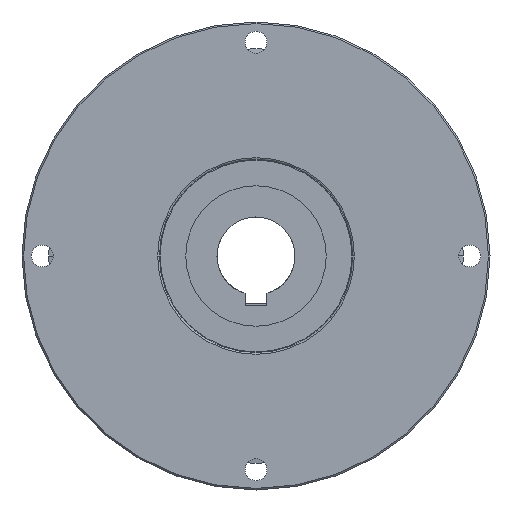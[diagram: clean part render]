
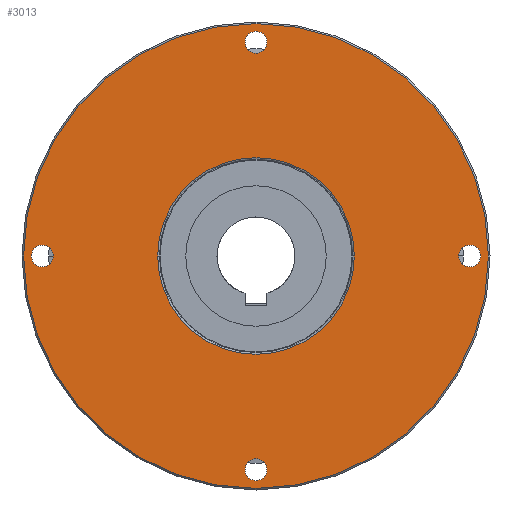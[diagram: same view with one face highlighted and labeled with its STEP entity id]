
A CAD part, front view. The second image highlights one B-rep face of the part: STEP entity #3013.
In plain terms, the highlighted planar face has unit normal (0, -1, 0).
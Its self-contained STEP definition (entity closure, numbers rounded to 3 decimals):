
#22 = ORIENTED_EDGE ( 'NONE', *, *, #2595, .T. ) ;
#56 = CIRCLE ( 'NONE', #6748, 3.5 ) ;
#57 = DIRECTION ( 'NONE',  ( 0., 0., 1. ) ) ;
#131 = DIRECTION ( 'NONE',  ( 0., 1., 0. ) ) ;
#275 = EDGE_CURVE ( 'NONE', #6487, #6667, #1657, .T. ) ;
#327 = AXIS2_PLACEMENT_3D ( 'NONE', #2169, #6372, #2766 ) ;
#418 = ORIENTED_EDGE ( 'NONE', *, *, #6399, .T. ) ;
#545 = EDGE_CURVE ( 'NONE', #6667, #6487, #7589, .T. ) ;
#572 = CARTESIAN_POINT ( 'NONE',  ( 68.5, -16.319, 0. ) ) ;
#643 = CARTESIAN_POINT ( 'NONE',  ( 0., -16.319, -72. ) ) ;
#662 = CARTESIAN_POINT ( 'NONE',  ( 0., -16.319, -31.5 ) ) ;
#766 = CARTESIAN_POINT ( 'NONE',  ( -68.5, -16.319, 0. ) ) ;
#830 = CIRCLE ( 'NONE', #6830, 3.5 ) ;
#940 = DIRECTION ( 'NONE',  ( 0., 0., 1. ) ) ;
#952 = ORIENTED_EDGE ( 'NONE', *, *, #5597, .T. ) ;
#987 = DIRECTION ( 'NONE',  ( 0., 1., 0. ) ) ;
#1085 = CARTESIAN_POINT ( 'NONE',  ( 0., -16.319, 0. ) ) ;
#1191 = CIRCLE ( 'NONE', #6592, 31.5 ) ;
#1277 = DIRECTION ( 'NONE',  ( 0., 1., 0. ) ) ;
#1371 = CARTESIAN_POINT ( 'NONE',  ( 0., -16.319, 31.5 ) ) ;
#1421 = AXIS2_PLACEMENT_3D ( 'NONE', #1553, #5731, #2146 ) ;
#1424 = EDGE_CURVE ( 'NONE', #2621, #4067, #2298, .T. ) ;
#1550 = CARTESIAN_POINT ( 'NONE',  ( 68.5, -16.319, -3.5 ) ) ;
#1553 = CARTESIAN_POINT ( 'NONE',  ( 0., -16.319, -68.5 ) ) ;
#1606 = EDGE_CURVE ( 'NONE', #7618, #2882, #6985, .T. ) ;
#1638 = EDGE_LOOP ( 'NONE', ( #6911, #3010 ) ) ;
#1657 = CIRCLE ( 'NONE', #6295, 3.5 ) ;
#1683 = DIRECTION ( 'NONE',  ( 0., 0., 1. ) ) ;
#1779 = EDGE_CURVE ( 'NONE', #7787, #2532, #4007, .T. ) ;
#2017 = ORIENTED_EDGE ( 'NONE', *, *, #275, .T. ) ;
#2146 = DIRECTION ( 'NONE',  ( 0., 0., 1. ) ) ;
#2169 = CARTESIAN_POINT ( 'NONE',  ( 0., -16.319, 0. ) ) ;
#2195 = DIRECTION ( 'NONE',  ( 0., 0., 1. ) ) ;
#2199 = CARTESIAN_POINT ( 'NONE',  ( 0., -16.319, 72. ) ) ;
#2298 = CIRCLE ( 'NONE', #2731, 3.5 ) ;
#2335 = EDGE_CURVE ( 'NONE', #4067, #2621, #56, .T. ) ;
#2339 = CARTESIAN_POINT ( 'NONE',  ( 0., -16.319, 0. ) ) ;
#2406 = FACE_OUTER_BOUND ( 'NONE', #1638, .T. ) ;
#2423 = DIRECTION ( 'NONE',  ( 0., 0., 1. ) ) ;
#2431 = ORIENTED_EDGE ( 'NONE', *, *, #1779, .T. ) ;
#2532 = VERTEX_POINT ( 'NONE', #662 ) ;
#2550 = DIRECTION ( 'NONE',  ( 0., 1., 0. ) ) ;
#2559 = CARTESIAN_POINT ( 'NONE',  ( 0., -16.319, -65. ) ) ;
#2595 = EDGE_CURVE ( 'NONE', #2532, #7787, #1191, .T. ) ;
#2598 = FACE_BOUND ( 'NONE', #4399, .T. ) ;
#2615 = CARTESIAN_POINT ( 'NONE',  ( 0., -16.319, -68.5 ) ) ;
#2621 = VERTEX_POINT ( 'NONE', #1550 ) ;
#2701 = CIRCLE ( 'NONE', #5963, 3.5 ) ;
#2715 = EDGE_LOOP ( 'NONE', ( #2723, #952 ) ) ;
#2723 = ORIENTED_EDGE ( 'NONE', *, *, #1606, .T. ) ;
#2731 = AXIS2_PLACEMENT_3D ( 'NONE', #6910, #987, #7583 ) ;
#2766 = DIRECTION ( 'NONE',  ( 0., 0., 1. ) ) ;
#2788 = ORIENTED_EDGE ( 'NONE', *, *, #2335, .T. ) ;
#2820 = VERTEX_POINT ( 'NONE', #4872 ) ;
#2882 = VERTEX_POINT ( 'NONE', #5114 ) ;
#3005 = AXIS2_PLACEMENT_3D ( 'NONE', #2339, #6560, #6202 ) ;
#3010 = ORIENTED_EDGE ( 'NONE', *, *, #7479, .T. ) ;
#3013 = ADVANCED_FACE ( 'NONE', ( #7197, #2598, #5584, #3988, #5959, #2406 ), #5593, .F. ) ;
#3210 = DIRECTION ( 'NONE',  ( 0., 0., 1. ) ) ;
#3615 = CARTESIAN_POINT ( 'NONE',  ( 0., -16.319, 68.5 ) ) ;
#3640 = DIRECTION ( 'NONE',  ( 0., 0., 1. ) ) ;
#3700 = CIRCLE ( 'NONE', #327, 74.5 ) ;
#3705 = CARTESIAN_POINT ( 'NONE',  ( -68.5, -16.319, 0. ) ) ;
#3958 = DIRECTION ( 'NONE',  ( 0., 1., 0. ) ) ;
#3983 = CARTESIAN_POINT ( 'NONE',  ( 0., -16.319, 0. ) ) ;
#3988 = FACE_BOUND ( 'NONE', #6561, .T. ) ;
#4007 = CIRCLE ( 'NONE', #3005, 31.5 ) ;
#4067 = VERTEX_POINT ( 'NONE', #4665 ) ;
#4273 = CARTESIAN_POINT ( 'NONE',  ( 0., -16.319, 68.5 ) ) ;
#4319 = DIRECTION ( 'NONE',  ( 0., 0., 1. ) ) ;
#4399 = EDGE_LOOP ( 'NONE', ( #2017, #5986 ) ) ;
#4404 = EDGE_LOOP ( 'NONE', ( #2431, #22 ) ) ;
#4443 = VERTEX_POINT ( 'NONE', #2559 ) ;
#4557 = DIRECTION ( 'NONE',  ( 0., 1., 0. ) ) ;
#4656 = EDGE_CURVE ( 'NONE', #5331, #2820, #3700, .T. ) ;
#4665 = CARTESIAN_POINT ( 'NONE',  ( 68.5, -16.319, 3.5 ) ) ;
#4872 = CARTESIAN_POINT ( 'NONE',  ( 0., -16.319, -74.5 ) ) ;
#5090 = AXIS2_PLACEMENT_3D ( 'NONE', #1085, #5269, #1683 ) ;
#5114 = CARTESIAN_POINT ( 'NONE',  ( -68.5, -16.319, -3.5 ) ) ;
#5269 = DIRECTION ( 'NONE',  ( 0., -1., 0. ) ) ;
#5331 = VERTEX_POINT ( 'NONE', #5696 ) ;
#5345 = CIRCLE ( 'NONE', #5090, 74.5 ) ;
#5422 = ORIENTED_EDGE ( 'NONE', *, *, #6233, .T. ) ;
#5584 = FACE_BOUND ( 'NONE', #2715, .T. ) ;
#5593 = PLANE ( 'NONE',  #6701 ) ;
#5597 = EDGE_CURVE ( 'NONE', #2882, #7618, #830, .T. ) ;
#5605 = DIRECTION ( 'NONE',  ( 0., 0., 1. ) ) ;
#5696 = CARTESIAN_POINT ( 'NONE',  ( 0., -16.319, 74.5 ) ) ;
#5731 = DIRECTION ( 'NONE',  ( 0., 1., 0. ) ) ;
#5959 = FACE_BOUND ( 'NONE', #4404, .T. ) ;
#5963 = AXIS2_PLACEMENT_3D ( 'NONE', #2615, #6816, #3210 ) ;
#5973 = AXIS2_PLACEMENT_3D ( 'NONE', #766, #2550, #5605 ) ;
#5986 = ORIENTED_EDGE ( 'NONE', *, *, #545, .T. ) ;
#5992 = CARTESIAN_POINT ( 'NONE',  ( -68.5, -16.319, 3.5 ) ) ;
#6044 = DIRECTION ( 'NONE',  ( 0., 1., 0. ) ) ;
#6202 = DIRECTION ( 'NONE',  ( 0., 0., 1. ) ) ;
#6233 = EDGE_CURVE ( 'NONE', #4443, #7660, #2701, .T. ) ;
#6295 = AXIS2_PLACEMENT_3D ( 'NONE', #3615, #4557, #2195 ) ;
#6372 = DIRECTION ( 'NONE',  ( 0., -1., 0. ) ) ;
#6399 = EDGE_CURVE ( 'NONE', #7660, #4443, #6547, .T. ) ;
#6487 = VERTEX_POINT ( 'NONE', #2199 ) ;
#6547 = CIRCLE ( 'NONE', #1421, 3.5 ) ;
#6560 = DIRECTION ( 'NONE',  ( 0., 1., 0. ) ) ;
#6561 = EDGE_LOOP ( 'NONE', ( #5422, #418 ) ) ;
#6578 = ORIENTED_EDGE ( 'NONE', *, *, #1424, .T. ) ;
#6592 = AXIS2_PLACEMENT_3D ( 'NONE', #3983, #3958, #940 ) ;
#6667 = VERTEX_POINT ( 'NONE', #7153 ) ;
#6676 = DIRECTION ( 'NONE',  ( 0., 1., 0. ) ) ;
#6701 = AXIS2_PLACEMENT_3D ( 'NONE', #6762, #6044, #57 ) ;
#6748 = AXIS2_PLACEMENT_3D ( 'NONE', #572, #6676, #2423 ) ;
#6762 = CARTESIAN_POINT ( 'NONE',  ( 75., -16.319, 0. ) ) ;
#6816 = DIRECTION ( 'NONE',  ( 0., 1., 0. ) ) ;
#6830 = AXIS2_PLACEMENT_3D ( 'NONE', #3705, #131, #4319 ) ;
#6910 = CARTESIAN_POINT ( 'NONE',  ( 68.5, -16.319, 0. ) ) ;
#6911 = ORIENTED_EDGE ( 'NONE', *, *, #4656, .T. ) ;
#6946 = AXIS2_PLACEMENT_3D ( 'NONE', #4273, #1277, #3640 ) ;
#6985 = CIRCLE ( 'NONE', #5973, 3.5 ) ;
#7153 = CARTESIAN_POINT ( 'NONE',  ( 0., -16.319, 65. ) ) ;
#7197 = FACE_BOUND ( 'NONE', #7649, .T. ) ;
#7479 = EDGE_CURVE ( 'NONE', #2820, #5331, #5345, .T. ) ;
#7583 = DIRECTION ( 'NONE',  ( 0., 0., 1. ) ) ;
#7589 = CIRCLE ( 'NONE', #6946, 3.5 ) ;
#7618 = VERTEX_POINT ( 'NONE', #5992 ) ;
#7649 = EDGE_LOOP ( 'NONE', ( #2788, #6578 ) ) ;
#7660 = VERTEX_POINT ( 'NONE', #643 ) ;
#7787 = VERTEX_POINT ( 'NONE', #1371 ) ;
